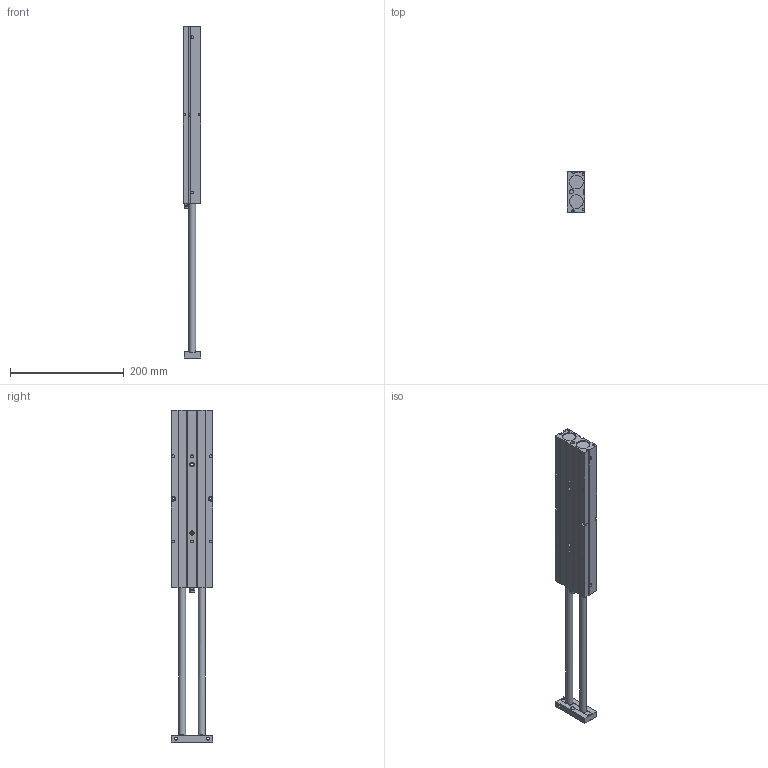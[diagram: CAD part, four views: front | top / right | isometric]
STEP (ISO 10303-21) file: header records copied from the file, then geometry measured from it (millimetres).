
FILE_DESCRIPTION((''),'2;1');
FILE_NAME('I:\3D電子目錄\氣缸\TD\TD25\TD25\TD25x125.stp','2007-08-06T09:52:19',('Administrator'),(''),'Autodesk Inventor 2008','Autodesk Inventor 2008','');
FILE_SCHEMA(('AUTOMOTIVE_DESIGN { 1 0 10303 214 1 1 1 1 }'));
Length unit declared in the file: millimetre
Products named in the file (1): TD25X250
Bounding box: 31 x 73 x 583 mm (x, y, z)
Volume: 732003.2 mm3; surface area: 118757 mm2
Topology: 1 solids, 3 shells, 197 faces, 494 edges, 324 vertices
Faces by surface type: plane 132, cylinder 52, cone 7, bspline 4, torus 2
Full cylindrical faces by diameter (mm): 4 x2, 4.5 x4, 5 x10, 7 x2, 8 x4, 10 x2, 11 x2, 12 x4, 24 x4
Entity records: 6021 total; most frequent: CARTESIAN_POINT 1449, DIRECTION 915, ORIENTED_EDGE 878, EDGE_CURVE 439, VERTEX_POINT 314, AXIS2_PLACEMENT_3D 312, VECTOR 291, LINE 291
